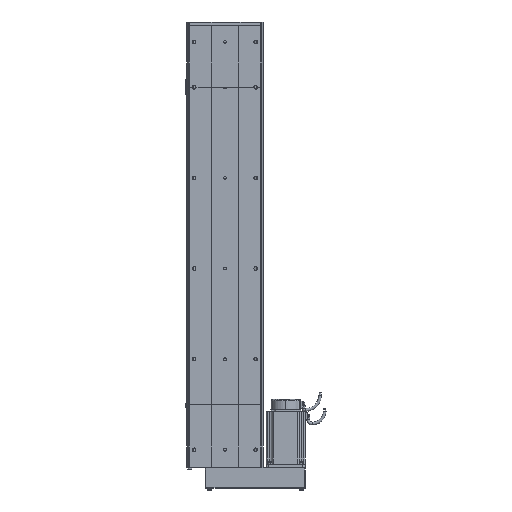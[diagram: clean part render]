
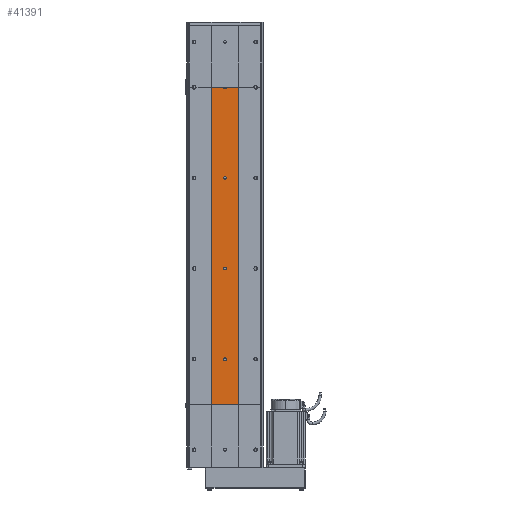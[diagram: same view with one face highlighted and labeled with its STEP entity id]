
A CAD part, front view. The second image highlights one B-rep face of the part: STEP entity #41391.
In plain terms, the highlighted planar face has unit normal (0, -1, 0).
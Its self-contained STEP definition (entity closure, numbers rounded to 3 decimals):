
#2678 = CIRCLE ( 'NONE', #2689, 3. ) ;
#2689 = AXIS2_PLACEMENT_3D ( 'NONE', #2696, #2751, #2750 ) ;
#2696 = CARTESIAN_POINT ( 'NONE',  ( 0., -32.5, 100. ) ) ;
#2705 = CARTESIAN_POINT ( 'NONE',  ( 0., -32.5, 97. ) ) ;
#2722 = CARTESIAN_POINT ( 'NONE',  ( 0., -32.5, 103. ) ) ;
#2750 = DIRECTION ( 'NONE',  ( 0., 0., -1. ) ) ;
#2751 = DIRECTION ( 'NONE',  ( 0., -1., 0. ) ) ;
#2886 = CARTESIAN_POINT ( 'NONE',  ( 30., -32.5, 0. ) ) ;
#2888 = LINE ( 'NONE', #2886, #2894 ) ;
#2893 = DIRECTION ( 'NONE',  ( 0., 0., 1. ) ) ;
#2894 = VECTOR ( 'NONE', #2893, 1000. ) ;
#2910 = DIRECTION ( 'NONE',  ( 0., 0., 1. ) ) ;
#2912 = VECTOR ( 'NONE', #2910, 1000. ) ;
#2913 = CARTESIAN_POINT ( 'NONE',  ( -30., -32.5, 0. ) ) ;
#2916 = LINE ( 'NONE', #2913, #2912 ) ;
#2919 = CIRCLE ( 'NONE', #3029, 3. ) ;
#2923 = DIRECTION ( 'NONE',  ( 0., 0., -1. ) ) ;
#2924 = DIRECTION ( 'NONE',  ( 0., -1., 0. ) ) ;
#2925 = CARTESIAN_POINT ( 'NONE',  ( 0., -32.5, 500. ) ) ;
#2926 = AXIS2_PLACEMENT_3D ( 'NONE', #2925, #2924, #2923 ) ;
#2960 = CIRCLE ( 'NONE', #2926, 3. ) ;
#3019 = DIRECTION ( 'NONE',  ( 0., 0., -1. ) ) ;
#3022 = DIRECTION ( 'NONE',  ( 0., -1., 0. ) ) ;
#3024 = CARTESIAN_POINT ( 'NONE',  ( 0., -32.5, 300. ) ) ;
#3029 = AXIS2_PLACEMENT_3D ( 'NONE', #3024, #3022, #3019 ) ;
#3605 = CARTESIAN_POINT ( 'NONE',  ( -30., -32.5, 0. ) ) ;
#3608 = FACE_BOUND ( 'NONE', #42541, .T. ) ;
#3611 = FACE_OUTER_BOUND ( 'NONE', #39237, .T. ) ;
#3625 = CARTESIAN_POINT ( 'NONE',  ( 0., -32.5, 700. ) ) ;
#3627 = CIRCLE ( 'NONE', #3678, 3. ) ;
#3628 = FACE_BOUND ( 'NONE', #39228, .T. ) ;
#3630 = AXIS2_PLACEMENT_3D ( 'NONE', #3605, #3639, #3677 ) ;
#3639 = DIRECTION ( 'NONE',  ( 0., 1., 0. ) ) ;
#3640 = FACE_BOUND ( 'NONE', #41507, .T. ) ;
#3648 = PLANE ( 'NONE',  #3630 ) ;
#3671 = DIRECTION ( 'NONE',  ( 0., 0., 1. ) ) ;
#3672 = DIRECTION ( 'NONE',  ( 0., 1., 0. ) ) ;
#3677 = DIRECTION ( 'NONE',  ( 0., 0., 1. ) ) ;
#3678 = AXIS2_PLACEMENT_3D ( 'NONE', #3625, #3672, #3671 ) ;
#3706 = CIRCLE ( 'NONE', #3765, 3. ) ;
#3761 = CARTESIAN_POINT ( 'NONE',  ( 0., -32.5, 100. ) ) ;
#3763 = DIRECTION ( 'NONE',  ( 0., 0., -1. ) ) ;
#3764 = DIRECTION ( 'NONE',  ( 0., -1., 0. ) ) ;
#3765 = AXIS2_PLACEMENT_3D ( 'NONE', #3761, #3764, #3763 ) ;
#4116 = CARTESIAN_POINT ( 'NONE',  ( 3., -32.5, 700. ) ) ;
#4296 = CARTESIAN_POINT ( 'NONE',  ( 0., -32.5, 697. ) ) ;
#4910 = CARTESIAN_POINT ( 'NONE',  ( 0., -32.5, 700. ) ) ;
#4921 = AXIS2_PLACEMENT_3D ( 'NONE', #4910, #4965, #4964 ) ;
#4930 = CIRCLE ( 'NONE', #4921, 3. ) ;
#4964 = DIRECTION ( 'NONE',  ( 0., 0., 1. ) ) ;
#4965 = DIRECTION ( 'NONE',  ( 0., 1., 0. ) ) ;
#5058 = CARTESIAN_POINT ( 'NONE',  ( 0., -32.5, 503. ) ) ;
#30303 = VERTEX_POINT ( 'NONE', #40848 ) ;
#30315 = EDGE_CURVE ( 'NONE', #30316, #30303, #40901, .T. ) ;
#30316 = VERTEX_POINT ( 'NONE', #40911 ) ;
#35958 = VERTEX_POINT ( 'NONE', #66267 ) ;
#35962 = EDGE_CURVE ( 'NONE', #35979, #35995, #66258, .T. ) ;
#35979 = VERTEX_POINT ( 'NONE', #66254 ) ;
#35995 = VERTEX_POINT ( 'NONE', #66300 ) ;
#35997 = EDGE_CURVE ( 'NONE', #42589, #35958, #66293, .T. ) ;
#38797 = VERTEX_POINT ( 'NONE', #2705 ) ;
#38799 = EDGE_CURVE ( 'NONE', #38972, #38797, #2678, .T. ) ;
#38972 = VERTEX_POINT ( 'NONE', #2722 ) ;
#39228 = EDGE_LOOP ( 'NONE', ( #39340, #39341 ) ) ;
#39234 = EDGE_CURVE ( 'NONE', #30316, #53874, #2888, .T. ) ;
#39237 = EDGE_LOOP ( 'NONE', ( #42327, #40876, #40873, #40895, #41452, #40893, #41531 ) ) ;
#39328 = EDGE_CURVE ( 'NONE', #35958, #42589, #2960, .T. ) ;
#39332 = EDGE_CURVE ( 'NONE', #30303, #53645, #2916, .T. ) ;
#39340 = ORIENTED_EDGE ( 'NONE', *, *, #39342, .F. ) ;
#39341 = ORIENTED_EDGE ( 'NONE', *, *, #35962, .F. ) ;
#39342 = EDGE_CURVE ( 'NONE', #35995, #35979, #2919, .T. ) ;
#40848 = CARTESIAN_POINT ( 'NONE',  ( -30., -32.5, 0. ) ) ;
#40873 = ORIENTED_EDGE ( 'NONE', *, *, #41392, .T. ) ;
#40876 = ORIENTED_EDGE ( 'NONE', *, *, #42521, .T. ) ;
#40893 = ORIENTED_EDGE ( 'NONE', *, *, #30315, .F. ) ;
#40895 = ORIENTED_EDGE ( 'NONE', *, *, #53485, .T. ) ;
#40898 = DIRECTION ( 'NONE',  ( -1., 0., 0. ) ) ;
#40899 = VECTOR ( 'NONE', #40898, 1000. ) ;
#40900 = CARTESIAN_POINT ( 'NONE',  ( -30., -32.5, 0. ) ) ;
#40901 = LINE ( 'NONE', #40900, #40899 ) ;
#40911 = CARTESIAN_POINT ( 'NONE',  ( 30., -32.5, 0. ) ) ;
#41391 = ADVANCED_FACE ( 'NONE', ( #3608, #3628, #3640, #3611 ), #3648, .F. ) ;
#41392 = EDGE_CURVE ( 'NONE', #42293, #53777, #3627, .T. ) ;
#41452 = ORIENTED_EDGE ( 'NONE', *, *, #39332, .F. ) ;
#41507 = EDGE_LOOP ( 'NONE', ( #41512, #42335 ) ) ;
#41512 = ORIENTED_EDGE ( 'NONE', *, *, #41951, .F. ) ;
#41530 = ORIENTED_EDGE ( 'NONE', *, *, #35997, .F. ) ;
#41531 = ORIENTED_EDGE ( 'NONE', *, *, #39234, .T. ) ;
#41951 = EDGE_CURVE ( 'NONE', #38797, #38972, #3706, .T. ) ;
#42112 = VERTEX_POINT ( 'NONE', #4116 ) ;
#42238 = ORIENTED_EDGE ( 'NONE', *, *, #39328, .F. ) ;
#42293 = VERTEX_POINT ( 'NONE', #4296 ) ;
#42327 = ORIENTED_EDGE ( 'NONE', *, *, #53736, .T. ) ;
#42335 = ORIENTED_EDGE ( 'NONE', *, *, #38799, .F. ) ;
#42521 = EDGE_CURVE ( 'NONE', #42112, #42293, #4930, .T. ) ;
#42541 = EDGE_LOOP ( 'NONE', ( #42238, #41530 ) ) ;
#42589 = VERTEX_POINT ( 'NONE', #5058 ) ;
#53485 = EDGE_CURVE ( 'NONE', #53777, #53645, #54595, .T. ) ;
#53645 = VERTEX_POINT ( 'NONE', #54646 ) ;
#53736 = EDGE_CURVE ( 'NONE', #53874, #42112, #54699, .T. ) ;
#53777 = VERTEX_POINT ( 'NONE', #54703 ) ;
#53874 = VERTEX_POINT ( 'NONE', #54804 ) ;
#54591 = DIRECTION ( 'NONE',  ( -1., 0., 0. ) ) ;
#54592 = VECTOR ( 'NONE', #54591, 1000. ) ;
#54593 = CARTESIAN_POINT ( 'NONE',  ( -30., -32.5, 700. ) ) ;
#54595 = LINE ( 'NONE', #54593, #54592 ) ;
#54646 = CARTESIAN_POINT ( 'NONE',  ( -30., -32.5, 700. ) ) ;
#54696 = DIRECTION ( 'NONE',  ( -1., 0., 0. ) ) ;
#54697 = VECTOR ( 'NONE', #54696, 1000. ) ;
#54698 = CARTESIAN_POINT ( 'NONE',  ( -30., -32.5, 700. ) ) ;
#54699 = LINE ( 'NONE', #54698, #54697 ) ;
#54703 = CARTESIAN_POINT ( 'NONE',  ( -3., -32.5, 700. ) ) ;
#54804 = CARTESIAN_POINT ( 'NONE',  ( 30., -32.5, 700. ) ) ;
#66250 = DIRECTION ( 'NONE',  ( 0., 0., -1. ) ) ;
#66251 = DIRECTION ( 'NONE',  ( 0., -1., 0. ) ) ;
#66252 = CARTESIAN_POINT ( 'NONE',  ( 0., -32.5, 300. ) ) ;
#66253 = AXIS2_PLACEMENT_3D ( 'NONE', #66252, #66251, #66250 ) ;
#66254 = CARTESIAN_POINT ( 'NONE',  ( 0., -32.5, 303. ) ) ;
#66258 = CIRCLE ( 'NONE', #66253, 3. ) ;
#66267 = CARTESIAN_POINT ( 'NONE',  ( 0., -32.5, 497. ) ) ;
#66290 = DIRECTION ( 'NONE',  ( 0., 0., -1. ) ) ;
#66291 = DIRECTION ( 'NONE',  ( 0., -1., 0. ) ) ;
#66292 = AXIS2_PLACEMENT_3D ( 'NONE', #66302, #66291, #66290 ) ;
#66293 = CIRCLE ( 'NONE', #66292, 3. ) ;
#66300 = CARTESIAN_POINT ( 'NONE',  ( 0., -32.5, 297. ) ) ;
#66302 = CARTESIAN_POINT ( 'NONE',  ( 0., -32.5, 500. ) ) ;
